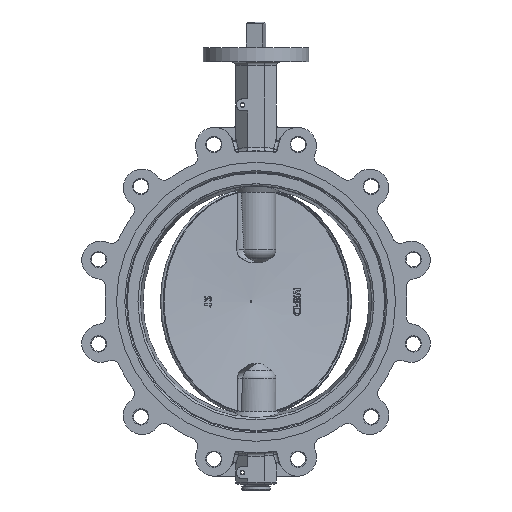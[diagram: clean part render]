
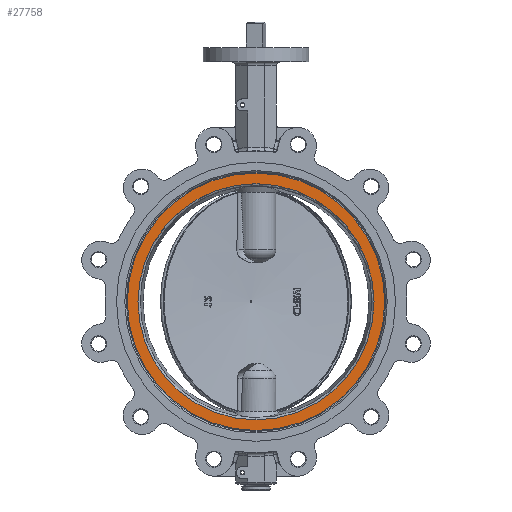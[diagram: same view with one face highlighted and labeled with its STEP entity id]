
A CAD part, left-side view. The second image highlights one B-rep face of the part: STEP entity #27758.
In plain terms, the highlighted planar face has unit normal (-1, 0, 0).
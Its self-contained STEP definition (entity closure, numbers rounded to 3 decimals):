
#27689 = CYLINDRICAL_SURFACE('',#27690,6.726);
#27690 = AXIS2_PLACEMENT_3D('',#27691,#27692,#27693);
#27691 = CARTESIAN_POINT('',(-71.437,-65.59,
    785.19));
#27692 = DIRECTION('',(1.,0.,0.));
#27693 = DIRECTION('',(-0.,1.,0.));
#27704 = EDGE_CURVE('',#27705,#27705,#27707,.T.);
#27705 = VERTEX_POINT('',#27706);
#27706 = CARTESIAN_POINT('',(-73.003,-58.864,
    785.19));
#27707 = SURFACE_CURVE('',#27708,(#27713,#27720),.PCURVE_S1.);
#27708 = CIRCLE('',#27709,6.726);
#27709 = AXIS2_PLACEMENT_3D('',#27710,#27711,#27712);
#27710 = CARTESIAN_POINT('',(-73.003,-65.59,
    785.19));
#27711 = DIRECTION('',(1.,0.,0.));
#27712 = DIRECTION('',(-0.,1.,0.));
#27713 = PCURVE('',#27689,#27714);
#27714 = DEFINITIONAL_REPRESENTATION('',(#27715),#27719);
#27715 = LINE('',#27716,#27717);
#27716 = CARTESIAN_POINT('',(0.,-1.566));
#27717 = VECTOR('',#27718,1.);
#27718 = DIRECTION('',(1.,0.));
#27719 = ( GEOMETRIC_REPRESENTATION_CONTEXT(2) 
PARAMETRIC_REPRESENTATION_CONTEXT() REPRESENTATION_CONTEXT('2D SPACE',''
  ) );
#27720 = PCURVE('',#27721,#27726);
#27721 = PLANE('',#27722);
#27722 = AXIS2_PLACEMENT_3D('',#27723,#27724,#27725);
#27723 = CARTESIAN_POINT('',(-73.003,-65.59,
    791.915));
#27724 = DIRECTION('',(-1.,0.,0.));
#27725 = DIRECTION('',(-0.,-1.,0.));
#27726 = DEFINITIONAL_REPRESENTATION('',(#27727),#27735);
#27727 = ( BOUNDED_CURVE() B_SPLINE_CURVE(2,(#27728,#27729,#27730,#27731
    ,#27732,#27733,#27734),.UNSPECIFIED.,.T.,.F.) 
B_SPLINE_CURVE_WITH_KNOTS((1,2,2,2,2,1),(-2.094,0.,
    2.094,4.189,6.283,8.378),
.UNSPECIFIED.) CURVE() GEOMETRIC_REPRESENTATION_ITEM() 
RATIONAL_B_SPLINE_CURVE((1.,0.5,1.,0.5,1.,0.5,1.)) REPRESENTATION_ITEM(
  '') );
#27728 = CARTESIAN_POINT('',(-6.726,-6.726));
#27729 = CARTESIAN_POINT('',(-6.726,4.923));
#27730 = CARTESIAN_POINT('',(3.363,-0.901));
#27731 = CARTESIAN_POINT('',(13.451,-6.726));
#27732 = CARTESIAN_POINT('',(3.363,-12.55));
#27733 = CARTESIAN_POINT('',(-6.726,-18.375));
#27734 = CARTESIAN_POINT('',(-6.726,-6.726));
#27735 = ( GEOMETRIC_REPRESENTATION_CONTEXT(2) 
PARAMETRIC_REPRESENTATION_CONTEXT() REPRESENTATION_CONTEXT('2D SPACE',''
  ) );
#27758 = ADVANCED_FACE('',(#27759,#27762),#27721,.T.);
#27759 = FACE_BOUND('',#27760,.T.);
#27760 = EDGE_LOOP('',(#27761));
#27761 = ORIENTED_EDGE('',*,*,#27704,.F.);
#27762 = FACE_BOUND('',#27763,.T.);
#27763 = EDGE_LOOP('',(#27764));
#27764 = ORIENTED_EDGE('',*,*,#27765,.T.);
#27765 = EDGE_CURVE('',#27766,#27766,#27768,.T.);
#27766 = VERTEX_POINT('',#27767);
#27767 = CARTESIAN_POINT('',(-73.003,-59.423,
    785.19));
#27768 = SURFACE_CURVE('',#27769,(#27774,#27785),.PCURVE_S1.);
#27769 = CIRCLE('',#27770,6.167);
#27770 = AXIS2_PLACEMENT_3D('',#27771,#27772,#27773);
#27771 = CARTESIAN_POINT('',(-73.003,-65.59,
    785.19));
#27772 = DIRECTION('',(1.,0.,0.));
#27773 = DIRECTION('',(-0.,1.,0.));
#27774 = PCURVE('',#27721,#27775);
#27775 = DEFINITIONAL_REPRESENTATION('',(#27776),#27784);
#27776 = ( BOUNDED_CURVE() B_SPLINE_CURVE(2,(#27777,#27778,#27779,#27780
    ,#27781,#27782,#27783),.UNSPECIFIED.,.T.,.F.) 
B_SPLINE_CURVE_WITH_KNOTS((1,2,2,2,2,1),(-2.094,0.,
    2.094,4.189,6.283,8.378),
.UNSPECIFIED.) CURVE() GEOMETRIC_REPRESENTATION_ITEM() 
RATIONAL_B_SPLINE_CURVE((1.,0.5,1.,0.5,1.,0.5,1.)) REPRESENTATION_ITEM(
  '') );
#27777 = CARTESIAN_POINT('',(-6.167,-6.726));
#27778 = CARTESIAN_POINT('',(-6.167,3.956));
#27779 = CARTESIAN_POINT('',(3.083,-1.385));
#27780 = CARTESIAN_POINT('',(12.334,-6.726));
#27781 = CARTESIAN_POINT('',(3.083,-12.066));
#27782 = CARTESIAN_POINT('',(-6.167,-17.407));
#27783 = CARTESIAN_POINT('',(-6.167,-6.726));
#27784 = ( GEOMETRIC_REPRESENTATION_CONTEXT(2) 
PARAMETRIC_REPRESENTATION_CONTEXT() REPRESENTATION_CONTEXT('2D SPACE',''
  ) );
#27785 = PCURVE('',#27786,#27791);
#27786 = TOROIDAL_SURFACE('',#27787,6.167,0.113);
#27787 = AXIS2_PLACEMENT_3D('',#27788,#27789,#27790);
#27788 = CARTESIAN_POINT('',(-72.89,-65.59,
    785.19));
#27789 = DIRECTION('',(1.,0.,0.));
#27790 = DIRECTION('',(-0.,1.,0.));
#27791 = DEFINITIONAL_REPRESENTATION('',(#27792),#27796);
#27792 = LINE('',#27793,#27794);
#27793 = CARTESIAN_POINT('',(0.,4.712));
#27794 = VECTOR('',#27795,1.);
#27795 = DIRECTION('',(1.,0.));
#27796 = ( GEOMETRIC_REPRESENTATION_CONTEXT(2) 
PARAMETRIC_REPRESENTATION_CONTEXT() REPRESENTATION_CONTEXT('2D SPACE',''
  ) );
